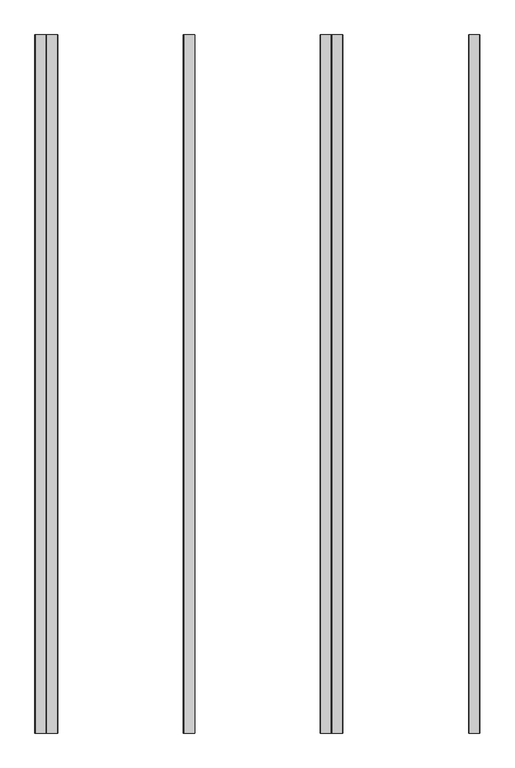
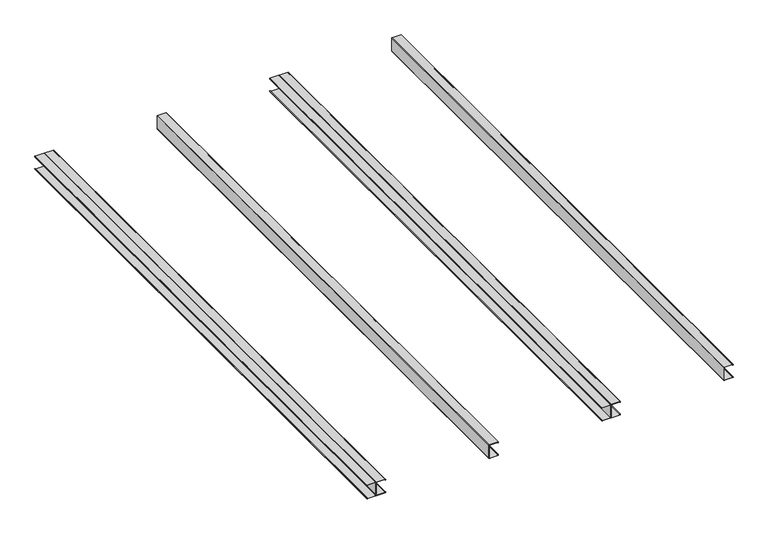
"""IFC4 building model written with IfcOpenShell, lengths in millimetres: proxy geometry, C- 2xCprofile-75 : C- 2xCprofile-75."""

import ifcopenshell
import ifcopenshell.guid

model = None  # the IFC model being written
_history = None  # IfcOwnerHistory: only IFC2X3 demands one
_inside = {}  # id of a spatial element -> (the spatial element, [elements in it])
_under = {}  # id of a project, library or spatial element -> (it, [spatial elements below it])
_declared = {}  # id of a project -> (the project, [libraries it declares])
_typed = {}  # id of a type object -> (the type object, [elements of that type])
_made_of = {}  # id of a material, layer set ... -> (it, [elements and type objects made of it])


def new_model(schema):
    """Start an empty IFC model of exactly this schema.

    Asked for "IFC4X3", IfcOpenShell would pick the latest addendum, in which some entities
    have other attributes; the version numbers below select the first issue.
    IFC2X3 requires an IfcOwnerHistory on every rooted entity: one is made here for all.
    """
    global model, _history
    if schema == "IFC4X3":
        model = ifcopenshell.file(schema_version=(4, 3, 0, 0))
    else:
        model = ifcopenshell.file(schema=schema)
    _inside.clear()
    _under.clear()
    _declared.clear()
    _typed.clear()
    _made_of.clear()
    _history = None
    if model.schema == "IFC2X3":
        org = make("IfcOrganization", Name="unknown")
        user = make(
            "IfcPersonAndOrganization",
            ThePerson=make("IfcPerson", FamilyName="unknown"),
            TheOrganization=org,
        )
        app = make(
            "IfcApplication",
            ApplicationDeveloper=org,
            Version="unknown",
            ApplicationFullName="unknown",
            ApplicationIdentifier="unknown",
        )
        _history = make(
            "IfcOwnerHistory",
            OwningUser=user,
            OwningApplication=app,
            ChangeAction="ADDED",
            CreationDate=0,
        )
    return model


def make(cls, **values):
    """One entity of the class cls with the attributes given. An attribute that is None is left unset."""
    return model.create_entity(
        cls, **{name: value for name, value in values.items() if value is not None}
    )


def rooted(cls, **values):
    """An entity with a GlobalId (a new one), such as an element, a storey or a relation."""
    return make(cls, GlobalId=ifcopenshell.guid.new(), OwnerHistory=_history, **values)


def si_unit(unit_type, name, prefix=None):
    """IfcSIUnit, for example si_unit("LENGTHUNIT", "METRE", prefix="MILLI")."""
    return make("IfcSIUnit", UnitType=unit_type, Prefix=prefix, Name=name)


def assignment(units):
    """IfcUnitAssignment: the units of a project."""
    return None if units is None else make("IfcUnitAssignment", Units=units)


def point(xyz):
    """IfcCartesianPoint."""
    return None if xyz is None else make("IfcCartesianPoint", Coordinates=xyz)


def direction(xyz):
    """IfcDirection."""
    return None if xyz is None else make("IfcDirection", DirectionRatios=xyz)


def frame(location, z_axis=None, x_axis=None):
    """IfcAxis2Placement3D, a coordinate frame: its origin and axes. An axis left out is left unset."""
    return make(
        "IfcAxis2Placement3D",
        Location=point(location),
        Axis=direction(z_axis),
        RefDirection=direction(x_axis),
    )


def frame_2d(location, x_axis=None):
    """IfcAxis2Placement2D, a coordinate frame in the plane: its origin and x axis."""
    return make(
        "IfcAxis2Placement2D", Location=point(location), RefDirection=direction(x_axis)
    )


def origin():
    """The frame at (0, 0, 0) with its axes left unset."""
    return frame((0.0, 0.0, 0.0))


def place(relative_to, where):
    """IfcLocalPlacement: puts the frame where relative to a parent placement (None: the world)."""
    return make(
        "IfcLocalPlacement", PlacementRelTo=relative_to, RelativePlacement=where
    )


def context(
    kind, dimensions, precision=None, world=None, true_north=None, identifier=None
):
    """IfcGeometricRepresentationContext, for example the 3D "Model" context."""
    return make(
        "IfcGeometricRepresentationContext",
        ContextIdentifier=identifier,
        ContextType=kind,
        CoordinateSpaceDimension=dimensions,
        Precision=precision,
        WorldCoordinateSystem=world,
        TrueNorth=true_north,
    )


def project(units=None, contexts=None):
    """IfcProject with its units and contexts."""
    return rooted(
        "IfcProject",
        Name="project",
        RepresentationContexts=contexts,
        UnitsInContext=assignment(units),
    )


def spatial(cls, under=None, at=None, **own):
    """A site, building, storey or space (cls), placed at a placement, below another one or the project."""
    s = rooted(cls, ObjectPlacement=at, **own)
    if under is not None:
        _under.setdefault(under.id(), (under, []))[1].append(s)
    return s


def polyline(points):
    """IfcPolyline through the points."""
    return make("IfcPolyline", Points=[point(p) for p in points])


def circle_curve(where, radius):
    """IfcCircle in the frame where."""
    return make("IfcCircle", Position=where, Radius=radius)


def trimmed(basis, trim1, trim2, sense, master):
    """IfcTrimmedCurve: the piece of a basis curve between two trims."""
    return make(
        "IfcTrimmedCurve",
        BasisCurve=basis,
        Trim1=trim1,
        Trim2=trim2,
        SenseAgreement=sense,
        MasterRepresentation=master,
    )


def segment(curve, same_sense, transition):
    """IfcCompositeCurveSegment."""
    return make(
        "IfcCompositeCurveSegment",
        Transition=transition,
        SameSense=same_sense,
        ParentCurve=curve,
    )


def composite_curve(segments, self_intersect=None):
    """IfcCompositeCurve: segments joined end to end."""
    return make("IfcCompositeCurve", Segments=segments, SelfIntersect=self_intersect)


def outline(outer, holes=None, kind="AREA"):
    """IfcArbitraryClosedProfileDef: a profile drawn as a closed curve; with holes, ...WithVoids."""
    if holes is None:
        return make("IfcArbitraryClosedProfileDef", ProfileType=kind, OuterCurve=outer)
    return make(
        "IfcArbitraryProfileDefWithVoids",
        ProfileType=kind,
        OuterCurve=outer,
        InnerCurves=holes,
    )


def extrude(swept, where, along, depth):
    """IfcExtrudedAreaSolid: the profile swept, set in the frame where, extruded along a direction by depth."""
    return make(
        "IfcExtrudedAreaSolid",
        SweptArea=swept,
        Position=where,
        ExtrudedDirection=direction(along),
        Depth=depth,
    )


def shape(context_of_items, identifier, shape_type, items):
    """IfcShapeRepresentation: the items that make up one representation, for example the "Body"."""
    return make(
        "IfcShapeRepresentation",
        ContextOfItems=context_of_items,
        RepresentationIdentifier=identifier,
        RepresentationType=shape_type,
        Items=items,
    )


def source(mapping_origin, context_of_items, identifier, shape_type, items):
    """IfcRepresentationMap: a shape defined once, which mapped items show again and again."""
    return make(
        "IfcRepresentationMap",
        MappingOrigin=mapping_origin,
        MappedRepresentation=shape(context_of_items, identifier, shape_type, items),
    )


def transform(
    local_origin,
    x_axis=None,
    y_axis=None,
    z_axis=None,
    scale=None,
    scale2=None,
    scale3=None,
    uniform=True,
):
    """IfcCartesianTransformationOperator3D, or its non-uniform kind. x_axis, y_axis, z_axis: its Axis1, 2, 3."""
    if uniform:
        return make(
            "IfcCartesianTransformationOperator3D",
            Axis1=direction(x_axis),
            Axis2=direction(y_axis),
            LocalOrigin=point(local_origin),
            Scale=scale,
            Axis3=direction(z_axis),
        )
    return make(
        "IfcCartesianTransformationOperator3DnonUniform",
        Axis1=direction(x_axis),
        Axis2=direction(y_axis),
        LocalOrigin=point(local_origin),
        Scale=scale,
        Axis3=direction(z_axis),
        Scale2=scale2,
        Scale3=scale3,
    )


def mapped(mapping_source, mapping_target):
    """IfcMappedItem: shows the shape of a source again, moved by a transform."""
    return make(
        "IfcMappedItem", MappingSource=mapping_source, MappingTarget=mapping_target
    )


def made_of(thing, what):
    """Note that an element or type object is made of a material, layer set ...; save() writes the relation."""
    if what is not None:
        _made_of.setdefault(what.id(), (what, []))[1].append(thing)
    return thing


def element(
    cls,
    number,
    at=None,
    inside=None,
    cuts=None,
    type_object=None,
    material=None,
    context=None,
    identifier="Body",
    shape_type=None,
    held_by="IfcProductDefinitionShape",
    body=None,
    shapes=None,
    **own,
):
    """One element of the class cls, such as IfcWall. Its Tag is "e" and its number.

    at: its placement. inside: the storey or other place that contains it. cuts: it is an
    opening in that element (IfcRelVoidsElement). A single representation is given by context,
    identifier, shape_type and body (its items); several are given by shapes. held_by: the class
    of the entity that holds the representations. save() writes the other relations.
    """
    e = rooted(cls, Tag="e%d" % number, ObjectPlacement=at, **own)
    if body is not None:
        shapes = [shape(context, identifier, shape_type, body)]
    if shapes is not None:
        e.Representation = make(held_by, Representations=shapes)
    if inside is not None:
        _inside.setdefault(inside.id(), (inside, []))[1].append(e)
    if cuts is not None:
        rooted(
            "IfcRelVoidsElement", RelatingBuildingElement=cuts, RelatedOpeningElement=e
        )
    if type_object is not None:
        _typed.setdefault(type_object.id(), (type_object, []))[1].append(e)
    return made_of(e, material)


def aggregate(whole, parts):
    """IfcRelAggregates: a whole, such as a stair, and the parts it consists of."""
    return rooted("IfcRelAggregates", RelatingObject=whole, RelatedObjects=parts)


def save(model, path):
    """Write the relations noted so far, then the file.

    IfcRelAggregates (storeys below a building ...), IfcRelContainedInSpatialStructure (elements
    in a storey), IfcRelDefinesByType, IfcRelAssociatesMaterial and IfcRelDeclares: one each for
    every whole, place, type object, material and project.
    """
    for whole, parts in _under.values():
        aggregate(whole, parts)
    for where, things in _inside.values():
        rooted(
            "IfcRelContainedInSpatialStructure",
            RelatedElements=things,
            RelatingStructure=where,
        )
    for kind, things in _typed.values():
        rooted("IfcRelDefinesByType", RelatedObjects=things, RelatingType=kind)
    for what, things in _made_of.values():
        rooted("IfcRelAssociatesMaterial", RelatedObjects=things, RelatingMaterial=what)
    for by, libraries in _declared.values():
        rooted("IfcRelDeclares", RelatingContext=by, RelatedDefinitions=libraries)
    model.write(path)


def generic_models_93a60fe8(model_context):
    return source(origin(), model_context, "Body", "SweptSolid", [
        extrude(outline(composite_curve([segment(polyline([(36.7, 1826.3409373), (36.7, 1874.7409373), (33.3621458, 1874.7409373), (33.3621458, 1873.9142072), (35.0, 1873.9142072), (35.0, 1873.1142072), (33.5995706, 1873.1142072)]), True, "CONTINUOUS"), segment(trimmed(circle_curve(frame_2d((33.5995706, 1874.3275723)), 1.213365), [point((33.5995706, 1873.1142072))], [point((33.5995706, 1875.5409373))], False, "CARTESIAN"), True, "CONTINUOUS"), segment(polyline([(33.5995706, 1875.5409373), (36.8270817, 1875.5409373)]), True, "CONTINUOUS"), segment(trimmed(circle_curve(frame_2d((36.8270817, 1874.868019)), 0.6729183), [point((36.8270817, 1875.5409373))], [point((37.5, 1874.868019))], False, "CARTESIAN"), True, "CONTINUOUS"), segment(polyline([(37.5, 1874.868019), (37.5, 1826.3409373)]), True, "CONTINUOUS"), segment(trimmed(circle_curve(frame_2d((36.7, 1826.3409373)), 0.8), [point((37.5, 1826.3409373))], [point((36.7, 1825.5409373))], False, "CARTESIAN"), True, "CONTINUOUS"), segment(polyline([(36.7, 1825.5409373), (-36.7, 1825.5409373)]), True, "CONTINUOUS"), segment(trimmed(circle_curve(frame_2d((-36.7, 1826.3409373)), 0.8), [point((-36.7, 1825.5409373))], [point((-37.5, 1826.3409373))], False, "CARTESIAN"), True, "CONTINUOUS"), segment(polyline([(-37.5, 1826.3409373), (-37.5, 1874.868019)]), True, "CONTINUOUS"), segment(trimmed(circle_curve(frame_2d((-36.8270817, 1874.868019)), 0.6729183), [point((-37.5, 1874.868019))], [point((-36.8270817, 1875.5409373))], False, "CARTESIAN"), True, "CONTINUOUS"), segment(polyline([(-36.8270817, 1875.5409373), (-33.5995706, 1875.5409373)]), True, "CONTINUOUS"), segment(trimmed(circle_curve(frame_2d((-33.5995706, 1874.3275723)), 1.213365), [point((-33.5995706, 1875.5409373))], [point((-33.5995706, 1873.1142072))], False, "CARTESIAN"), True, "CONTINUOUS"), segment(polyline([(-33.5995706, 1873.1142072), (-35.0, 1873.1142072), (-35.0, 1873.9142072), (-33.3621458, 1873.9142072), (-33.3621458, 1874.7409373), (-36.7, 1874.7409373), (-36.7, 1826.3409373), (36.7, 1826.3409373)]), True, "CONTINUOUS")], self_intersect=False)), frame((0.0, 0.0, 0.0), z_axis=(0.0, 1.0, 0.0), x_axis=(0.0, 0.0, 1.0)), (0.0, 0.0, 1.0), 3060.0),
        extrude(outline(composite_curve([segment(polyline([(36.7, 576.3409373), (36.7, 624.7409373), (33.3621458, 624.7409373), (33.3621458, 623.9142072), (35.0, 623.9142072), (35.0, 623.1142072), (33.5995706, 623.1142072)]), True, "CONTINUOUS"), segment(trimmed(circle_curve(frame_2d((33.5995706, 624.3275723)), 1.213365), [point((33.5995706, 623.1142072))], [point((33.5995706, 625.5409373))], False, "CARTESIAN"), True, "CONTINUOUS"), segment(polyline([(33.5995706, 625.5409373), (36.8270817, 625.5409373)]), True, "CONTINUOUS"), segment(trimmed(circle_curve(frame_2d((36.8270817, 624.868019)), 0.6729183), [point((36.8270817, 625.5409373))], [point((37.5, 624.868019))], False, "CARTESIAN"), True, "CONTINUOUS"), segment(polyline([(37.5, 624.868019), (37.5, 576.3409373)]), True, "CONTINUOUS"), segment(trimmed(circle_curve(frame_2d((36.7, 576.3409373)), 0.8), [point((37.5, 576.3409373))], [point((36.7, 575.5409373))], False, "CARTESIAN"), True, "CONTINUOUS"), segment(polyline([(36.7, 575.5409373), (-36.7, 575.5409373)]), True, "CONTINUOUS"), segment(trimmed(circle_curve(frame_2d((-36.7, 576.3409373)), 0.8), [point((-36.7, 575.5409373))], [point((-37.5, 576.3409373))], False, "CARTESIAN"), True, "CONTINUOUS"), segment(polyline([(-37.5, 576.3409373), (-37.5, 624.868019)]), True, "CONTINUOUS"), segment(trimmed(circle_curve(frame_2d((-36.8270817, 624.868019)), 0.6729183), [point((-37.5, 624.868019))], [point((-36.8270817, 625.5409373))], False, "CARTESIAN"), True, "CONTINUOUS"), segment(polyline([(-36.8270817, 625.5409373), (-33.5995706, 625.5409373)]), True, "CONTINUOUS"), segment(trimmed(circle_curve(frame_2d((-33.5995706, 624.3275723)), 1.213365), [point((-33.5995706, 625.5409373))], [point((-33.5995706, 623.1142072))], False, "CARTESIAN"), True, "CONTINUOUS"), segment(polyline([(-33.5995706, 623.1142072), (-35.0, 623.1142072), (-35.0, 623.9142072), (-33.3621458, 623.9142072), (-33.3621458, 624.7409373), (-36.7, 624.7409373), (-36.7, 576.3409373), (36.7, 576.3409373)]), True, "CONTINUOUS")], self_intersect=False)), frame((0.0, 0.0, 0.0), z_axis=(0.0, 1.0, 0.0), x_axis=(0.0, 0.0, 1.0)), (0.0, 0.0, 1.0), 3060.0),
        extrude(outline(composite_curve([segment(polyline([(36.7, 1224.2), (-36.7, 1224.2), (-36.7, 1175.8), (-33.3621458, 1175.8), (-33.3621458, 1176.62673), (-35.0, 1176.62673), (-35.0, 1177.42673), (-33.5995706, 1177.42673)]), True, "CONTINUOUS"), segment(trimmed(circle_curve(frame_2d((-33.5995706, 1176.213365)), 1.213365), [point((-33.5995706, 1177.42673))], [point((-33.5995706, 1175.0))], False, "CARTESIAN"), True, "CONTINUOUS"), segment(polyline([(-33.5995706, 1175.0), (-36.8270817, 1175.0)]), True, "CONTINUOUS"), segment(trimmed(circle_curve(frame_2d((-36.8270817, 1175.6729183)), 0.6729183), [point((-36.8270817, 1175.0))], [point((-37.5, 1175.6729183))], False, "CARTESIAN"), True, "CONTINUOUS"), segment(polyline([(-37.5, 1175.6729183), (-37.5, 1224.2)]), True, "CONTINUOUS"), segment(trimmed(circle_curve(frame_2d((-36.7, 1224.2)), 0.8), [point((-37.5, 1224.2))], [point((-36.7, 1225.0))], False, "CARTESIAN"), True, "CONTINUOUS"), segment(trimmed(circle_curve(frame_2d((-36.7, 1225.8)), 0.8), [point((-36.7, 1225.0))], [point((-37.5, 1225.8))], False, "CARTESIAN"), True, "CONTINUOUS"), segment(polyline([(-37.5, 1225.8), (-37.5, 1274.3270817)]), True, "CONTINUOUS"), segment(trimmed(circle_curve(frame_2d((-36.8270817, 1274.3270817)), 0.6729183), [point((-37.5, 1274.3270817))], [point((-36.8270817, 1275.0))], False, "CARTESIAN"), True, "CONTINUOUS"), segment(polyline([(-36.8270817, 1275.0), (-33.5995706, 1275.0)]), True, "CONTINUOUS"), segment(trimmed(circle_curve(frame_2d((-33.5995706, 1273.786635)), 1.213365), [point((-33.5995706, 1275.0))], [point((-33.5995706, 1272.57327))], False, "CARTESIAN"), True, "CONTINUOUS"), segment(polyline([(-33.5995706, 1272.57327), (-35.0, 1272.57327), (-35.0, 1273.37327), (-33.3621458, 1273.37327), (-33.3621458, 1274.2), (-36.7, 1274.2), (-36.7, 1225.8), (36.7, 1225.8), (36.7, 1274.2), (33.3621458, 1274.2), (33.3621458, 1273.37327), (35.0, 1273.37327), (35.0, 1272.57327), (33.5995706, 1272.57327)]), True, "CONTINUOUS"), segment(trimmed(circle_curve(frame_2d((33.5995706, 1273.786635)), 1.213365), [point((33.5995706, 1272.57327))], [point((33.5995706, 1275.0))], False, "CARTESIAN"), True, "CONTINUOUS"), segment(polyline([(33.5995706, 1275.0), (36.8270817, 1275.0)]), True, "CONTINUOUS"), segment(trimmed(circle_curve(frame_2d((36.8270817, 1274.3270817)), 0.6729183), [point((36.8270817, 1275.0))], [point((37.5, 1274.3270817))], False, "CARTESIAN"), True, "CONTINUOUS"), segment(polyline([(37.5, 1274.3270817), (37.5, 1225.8)]), True, "CONTINUOUS"), segment(trimmed(circle_curve(frame_2d((36.7, 1225.8)), 0.8), [point((37.5, 1225.8))], [point((36.7, 1225.0))], False, "CARTESIAN"), True, "CONTINUOUS"), segment(trimmed(circle_curve(frame_2d((36.7, 1224.2)), 0.8), [point((36.7, 1225.0))], [point((37.5, 1224.2))], False, "CARTESIAN"), True, "CONTINUOUS"), segment(polyline([(37.5, 1224.2), (37.5, 1175.6729183)]), True, "CONTINUOUS"), segment(trimmed(circle_curve(frame_2d((36.8270817, 1175.6729183)), 0.6729183), [point((37.5, 1175.6729183))], [point((36.8270817, 1175.0))], False, "CARTESIAN"), True, "CONTINUOUS"), segment(polyline([(36.8270817, 1175.0), (33.5995706, 1175.0)]), True, "CONTINUOUS"), segment(trimmed(circle_curve(frame_2d((33.5995706, 1176.213365)), 1.213365), [point((33.5995706, 1175.0))], [point((33.5995706, 1177.42673))], False, "CARTESIAN"), True, "CONTINUOUS"), segment(polyline([(33.5995706, 1177.42673), (35.0, 1177.42673), (35.0, 1176.62673), (33.3621458, 1176.62673), (33.3621458, 1175.8), (36.7, 1175.8), (36.7, 1224.2)]), True, "CONTINUOUS")], self_intersect=False)), frame((0.0, 0.0, 0.0), z_axis=(0.0, 1.0, 0.0), x_axis=(0.0, 0.0, 1.0)), (0.0, 0.0, 1.0), 3060.0),
        extrude(outline(composite_curve([segment(polyline([(36.7, -25.8), (-36.7, -25.8), (-36.7, -74.2), (-33.3621458, -74.2), (-33.3621458, -73.37327), (-35.0, -73.37327), (-35.0, -72.57327), (-33.5995706, -72.57327)]), True, "CONTINUOUS"), segment(trimmed(circle_curve(frame_2d((-33.5995706, -73.786635)), 1.213365), [point((-33.5995706, -72.57327))], [point((-33.5995706, -75.0))], False, "CARTESIAN"), True, "CONTINUOUS"), segment(polyline([(-33.5995706, -75.0), (-36.8270817, -75.0)]), True, "CONTINUOUS"), segment(trimmed(circle_curve(frame_2d((-36.8270817, -74.3270817)), 0.6729183), [point((-36.8270817, -75.0))], [point((-37.5, -74.3270817))], False, "CARTESIAN"), True, "CONTINUOUS"), segment(polyline([(-37.5, -74.3270817), (-37.5, -25.8)]), True, "CONTINUOUS"), segment(trimmed(circle_curve(frame_2d((-36.7, -25.8)), 0.8), [point((-37.5, -25.8))], [point((-36.7, -25.0))], False, "CARTESIAN"), True, "CONTINUOUS"), segment(trimmed(circle_curve(frame_2d((-36.7, -24.2)), 0.8), [point((-36.7, -25.0))], [point((-37.5, -24.2))], False, "CARTESIAN"), True, "CONTINUOUS"), segment(polyline([(-37.5, -24.2), (-37.5, 24.3270817)]), True, "CONTINUOUS"), segment(trimmed(circle_curve(frame_2d((-36.8270817, 24.3270817)), 0.6729183), [point((-37.5, 24.3270817))], [point((-36.8270817, 25.0))], False, "CARTESIAN"), True, "CONTINUOUS"), segment(polyline([(-36.8270817, 25.0), (-33.5995706, 25.0)]), True, "CONTINUOUS"), segment(trimmed(circle_curve(frame_2d((-33.5995706, 23.786635)), 1.213365), [point((-33.5995706, 25.0))], [point((-33.5995706, 22.57327))], False, "CARTESIAN"), True, "CONTINUOUS"), segment(polyline([(-33.5995706, 22.57327), (-35.0, 22.57327), (-35.0, 23.37327), (-33.3621458, 23.37327), (-33.3621458, 24.2), (-36.7, 24.2), (-36.7, -24.2), (36.7, -24.2), (36.7, 24.2), (33.3621458, 24.2), (33.3621458, 23.37327), (35.0, 23.37327), (35.0, 22.57327), (33.5995706, 22.57327)]), True, "CONTINUOUS"), segment(trimmed(circle_curve(frame_2d((33.5995706, 23.786635)), 1.213365), [point((33.5995706, 22.57327))], [point((33.5995706, 25.0))], False, "CARTESIAN"), True, "CONTINUOUS"), segment(polyline([(33.5995706, 25.0), (36.8270817, 25.0)]), True, "CONTINUOUS"), segment(trimmed(circle_curve(frame_2d((36.8270817, 24.3270817)), 0.6729183), [point((36.8270817, 25.0))], [point((37.5, 24.3270817))], False, "CARTESIAN"), True, "CONTINUOUS"), segment(polyline([(37.5, 24.3270817), (37.5, -24.2)]), True, "CONTINUOUS"), segment(trimmed(circle_curve(frame_2d((36.7, -24.2)), 0.8), [point((37.5, -24.2))], [point((36.7, -25.0))], False, "CARTESIAN"), True, "CONTINUOUS"), segment(trimmed(circle_curve(frame_2d((36.7, -25.8)), 0.8), [point((36.7, -25.0))], [point((37.5, -25.8))], False, "CARTESIAN"), True, "CONTINUOUS"), segment(polyline([(37.5, -25.8), (37.5, -74.3270817)]), True, "CONTINUOUS"), segment(trimmed(circle_curve(frame_2d((36.8270817, -74.3270817)), 0.6729183), [point((37.5, -74.3270817))], [point((36.8270817, -75.0))], False, "CARTESIAN"), True, "CONTINUOUS"), segment(polyline([(36.8270817, -75.0), (33.5995706, -75.0)]), True, "CONTINUOUS"), segment(trimmed(circle_curve(frame_2d((33.5995706, -73.786635)), 1.213365), [point((33.5995706, -75.0))], [point((33.5995706, -72.57327))], False, "CARTESIAN"), True, "CONTINUOUS"), segment(polyline([(33.5995706, -72.57327), (35.0, -72.57327), (35.0, -73.37327), (33.3621458, -73.37327), (33.3621458, -74.2), (36.7, -74.2), (36.7, -25.8)]), True, "CONTINUOUS")], self_intersect=False)), frame((0.0, 0.0, 0.0), z_axis=(0.0, 1.0, 0.0), x_axis=(0.0, 0.0, 1.0)), (0.0, 0.0, 1.0), 3060.0),
    ])


if __name__ == "__main__":
    model = new_model("IFC4")
    model_context = context("Model", 3, world=origin())
    ifc_project = project(units=[si_unit("LENGTHUNIT", "METRE", prefix="MILLI")], contexts=[model_context])
    site = spatial("IfcSite", under=ifc_project)
    building = spatial("IfcBuilding", under=site)
    placement = place(None, origin())
    generic_models_shape = generic_models_93a60fe8(model_context)
    element("IfcBuildingElementProxy", 1, Name="C- 2xCprofile-75 : C- 2xCprofile-75", ObjectType="C- 2xCprofile-75 : C- 2xCprofile-75", at=placement, inside=building, context=model_context, shape_type="MappedRepresentation", body=[
        mapped(generic_models_shape, transform((0.0, 0.0, 0.0), x_axis=(1.0, 0.0, 0.0), y_axis=(0.0, 1.0, 0.0), z_axis=(0.0, 0.0, 1.0))),
    ])
    save(model, "model.ifc")
